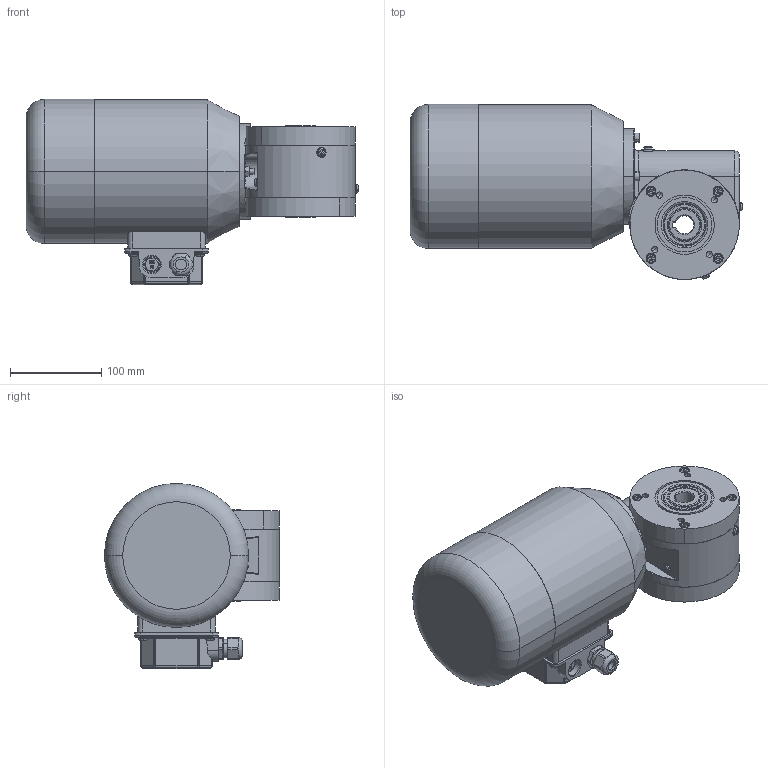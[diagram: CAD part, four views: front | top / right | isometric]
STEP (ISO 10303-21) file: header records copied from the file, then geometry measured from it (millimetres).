
FILE_DESCRIPTION (( 'STEP AP214' ), '1' );
FILE_NAME ('SN8BFH_550W_1400Upm_Drehstrom-Motor_A.STEP', '2021-09-21T06:39:24', ( '' ), ( '' ), 'SwSTEP 2.0', 'SolidWorks 2019', '' );
FILE_SCHEMA (( 'AUTOMOTIVE_DESIGN' ));
Length unit declared in the file: millimetre
Products named in the file (13): U-Seal Ring Ø5; 08FH-W-001_3D_Export; hex nut style 1 gradeab_din_Hexagon Nut ISO 4032 - M6 - D - C; socket set screw flat point_din_DIN 913 - M6 x 25-C; SN8BFH_550W_1400Upm_Drehstrom-Motor_A; 08BFH-D-008_3D_Export; 08B-G-003_3D_Export; 08-M-163 I 550W_1400Upm; Kupferscheibe Ø6x10x1; NBR_WDR_35x47x7; socket head cap screw_din_DIN 912 M6 x 20 --- 20C; slotted pan head screw_din_DIN EN ISO 1580 - M5 x 6 - 6C; SN8BFH_3D_Export
Assembly tree (37 placements, depth 3):
  SN8BFH_550W_1400Upm_Drehstrom-Motor_A
    SN8BFH_3D_Export
      08B-G-003_3D_Export
      08FH-W-001_3D_Export
      08BFH-D-008_3D_Export  x2
      NBR_WDR_35x47x7  x2
      socket head cap screw_din_DIN 912 M6 x 20 --- 20C  x11
      slotted pan head screw_din_DIN EN ISO 1580 - M5 x 6 - 6C  x4
      socket set screw flat point_din_DIN 913 - M6 x 25-C
      hex nut style 1 gradeab_din_Hexagon Nut ISO 4032 - M6 - D - C
      Kupferscheibe Ø6x10x1  x8
      U-Seal Ring Ø5  x4
    08-M-163 I 550W_1400Upm
Bounding box: 364 x 192 x 203 mm (x, y, z)
Volume: 5841350.9 mm3; surface area: 388654.7 mm2
Topology: 37 solids, 37 shells, 1393 faces, 3410 edges, 2114 vertices
Faces by surface type: plane 510, cylinder 472, cone 231, torus 120, bspline 36, sphere 24
Entity records: 32200 total; most frequent: CARTESIAN_POINT 8609, DIRECTION 4864, ORIENTED_EDGE 4832, EDGE_CURVE 2416, AXIS2_PLACEMENT_3D 1927, VERTEX_POINT 1536, EDGE_LOOP 1066, LINE 1010
